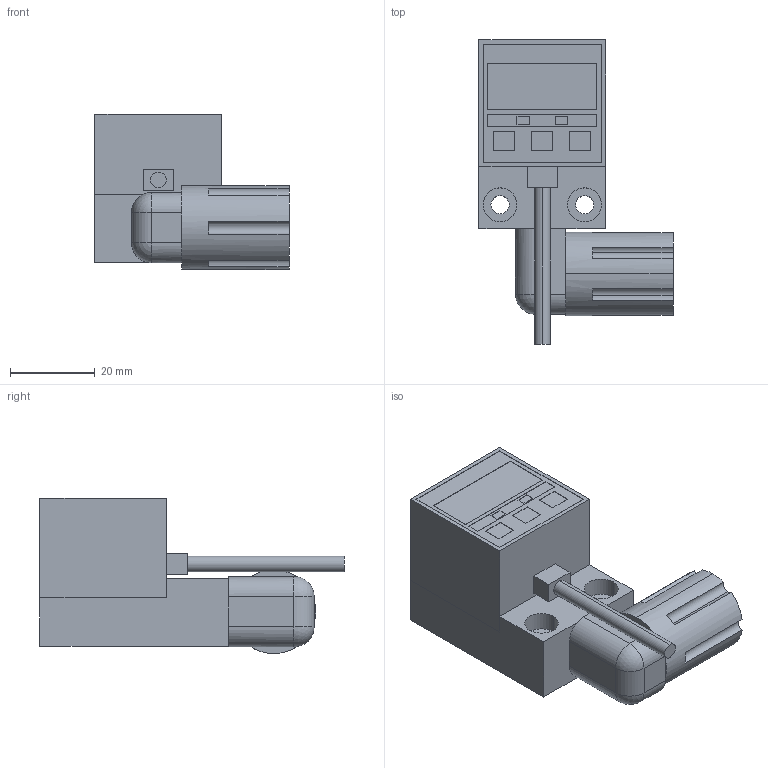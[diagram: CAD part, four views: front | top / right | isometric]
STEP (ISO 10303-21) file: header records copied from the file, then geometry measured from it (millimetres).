
FILE_DESCRIPTION (( 'STEP AP214' ), '1' );
FILE_NAME ('pressure-switch-assembly.STEP', '2012-10-25T19:47:21', ( '' ), ( '' ), 'SwSTEP 2.0', 'SolidWorks 2012', '' );
FILE_SCHEMA (( 'AUTOMOTIVE_DESIGN' ));
Length unit declared in the file: inch
Products named in the file (1): pressure-switch-assembly
Bounding box: 45.94 x 72 x 36.71 mm (x, y, z)
Volume: 49023.7 mm3; surface area: 11363.3 mm2
Topology: 1 solids, 1 shells, 109 faces, 266 edges, 170 vertices
Faces by surface type: plane 80, cylinder 27, sphere 2
Entity records: 4128 total; most frequent: DIRECTION 560, CARTESIAN_POINT 544, ORIENTED_EDGE 528, EDGE_CURVE 264, LINE 188, VECTOR 188, AXIS2_PLACEMENT_3D 186, VERTEX_POINT 170
